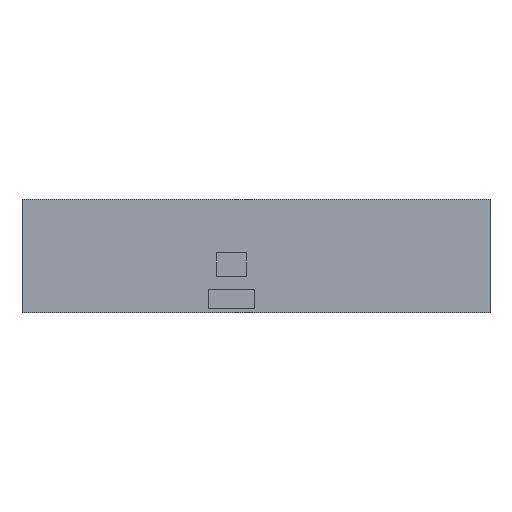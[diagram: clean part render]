
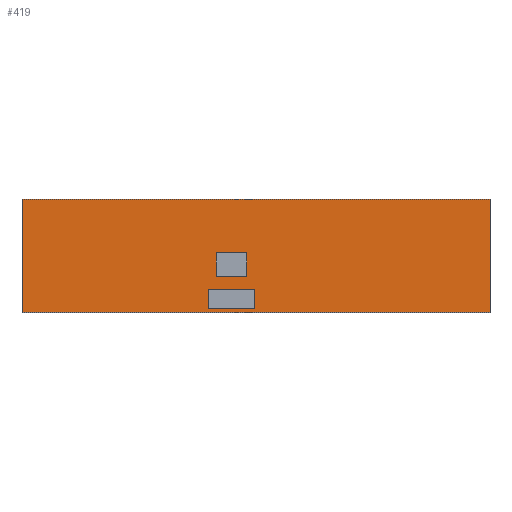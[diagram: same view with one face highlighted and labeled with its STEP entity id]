
A CAD part, top view. The second image highlights one B-rep face of the part: STEP entity #419.
In plain terms, the highlighted planar face has unit normal (0, 0, 1).
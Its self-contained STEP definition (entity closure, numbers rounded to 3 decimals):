
#72=DIRECTION('',(1.,0.,0.));
#73=VECTOR('',#72,35.2);
#74=CARTESIAN_POINT('',(-20.31,7.02,0.5));
#75=LINE('',#74,#73);
#79=DIRECTION('',(0.,-1.,0.));
#80=VECTOR('',#79,8.5);
#81=CARTESIAN_POINT('',(14.89,7.02,0.5));
#82=LINE('',#81,#80);
#86=DIRECTION('',(-1.,0.,0.));
#87=VECTOR('',#86,35.2);
#88=CARTESIAN_POINT('',(14.89,-1.48,0.5));
#89=LINE('',#88,#87);
#93=DIRECTION('',(0.,1.,0.));
#94=VECTOR('',#93,8.5);
#95=CARTESIAN_POINT('',(-20.31,-1.48,0.5));
#96=LINE('',#95,#94);
#100=DIRECTION('',(-1.,0.,0.));
#101=VECTOR('',#100,2.3);
#102=CARTESIAN_POINT('',(-3.41,3.02,0.5));
#103=LINE('',#102,#101);
#107=DIRECTION('',(0.,-1.,0.));
#108=VECTOR('',#107,1.8);
#109=CARTESIAN_POINT('',(-5.71,3.02,0.5));
#110=LINE('',#109,#108);
#114=DIRECTION('',(1.,0.,0.));
#115=VECTOR('',#114,2.3);
#116=CARTESIAN_POINT('',(-5.71,1.22,0.5));
#117=LINE('',#116,#115);
#121=DIRECTION('',(0.,1.,0.));
#122=VECTOR('',#121,1.8);
#123=CARTESIAN_POINT('',(-3.41,1.22,0.5));
#124=LINE('',#123,#122);
#128=DIRECTION('',(-1.,0.,0.));
#129=VECTOR('',#128,3.5);
#130=CARTESIAN_POINT('',(-2.81,0.22,0.5));
#131=LINE('',#130,#129);
#135=DIRECTION('',(0.,-1.,0.));
#136=VECTOR('',#135,1.4);
#137=CARTESIAN_POINT('',(-6.31,0.22,0.5));
#138=LINE('',#137,#136);
#142=DIRECTION('',(1.,0.,0.));
#143=VECTOR('',#142,3.5);
#144=CARTESIAN_POINT('',(-6.31,-1.18,0.5));
#145=LINE('',#144,#143);
#149=DIRECTION('',(0.,1.,0.));
#150=VECTOR('',#149,1.4);
#151=CARTESIAN_POINT('',(-2.81,-1.18,0.5));
#152=LINE('',#151,#150);
#276=CARTESIAN_POINT('',(14.89,7.02,0.5));
#277=VERTEX_POINT('',#276);
#278=CARTESIAN_POINT('',(-20.31,7.02,0.5));
#279=VERTEX_POINT('',#278);
#280=CARTESIAN_POINT('',(14.89,-1.48,0.5));
#281=VERTEX_POINT('',#280);
#282=CARTESIAN_POINT('',(-20.31,-1.48,0.5));
#283=VERTEX_POINT('',#282);
#284=CARTESIAN_POINT('',(-3.41,3.02,0.5));
#285=CARTESIAN_POINT('',(-5.71,3.02,0.5));
#286=VERTEX_POINT('',#284);
#287=VERTEX_POINT('',#285);
#288=CARTESIAN_POINT('',(-5.71,1.22,0.5));
#289=VERTEX_POINT('',#288);
#290=CARTESIAN_POINT('',(-3.41,1.22,0.5));
#291=VERTEX_POINT('',#290);
#292=CARTESIAN_POINT('',(-2.81,0.22,0.5));
#293=CARTESIAN_POINT('',(-6.31,0.22,0.5));
#294=VERTEX_POINT('',#292);
#295=VERTEX_POINT('',#293);
#296=CARTESIAN_POINT('',(-6.31,-1.18,0.5));
#297=VERTEX_POINT('',#296);
#298=CARTESIAN_POINT('',(-2.81,-1.18,0.5));
#299=VERTEX_POINT('',#298);
#388=CARTESIAN_POINT('',(0.,0.,0.5));
#389=DIRECTION('',(0.,0.,1.));
#390=DIRECTION('',(1.,0.,0.));
#391=AXIS2_PLACEMENT_3D('',#388,#389,#390);
#392=PLANE('',#391);
#393=ORIENTED_EDGE('',*,*,#339,.T.);
#394=ORIENTED_EDGE('',*,*,#354,.T.);
#395=ORIENTED_EDGE('',*,*,#368,.T.);
#396=ORIENTED_EDGE('',*,*,#381,.T.);
#397=EDGE_LOOP('',(#393,#394,#395,#396));
#398=FACE_OUTER_BOUND('',#397,.F.);
#400=ORIENTED_EDGE('',*,*,#399,.T.);
#402=ORIENTED_EDGE('',*,*,#401,.T.);
#404=ORIENTED_EDGE('',*,*,#403,.T.);
#406=ORIENTED_EDGE('',*,*,#405,.T.);
#407=EDGE_LOOP('',(#400,#402,#404,#406));
#408=FACE_BOUND('',#407,.F.);
#410=ORIENTED_EDGE('',*,*,#409,.T.);
#412=ORIENTED_EDGE('',*,*,#411,.T.);
#414=ORIENTED_EDGE('',*,*,#413,.T.);
#416=ORIENTED_EDGE('',*,*,#415,.T.);
#417=EDGE_LOOP('',(#410,#412,#414,#416));
#418=FACE_BOUND('',#417,.F.);
#339=EDGE_CURVE('',#279,#277,#75,.T.);
#354=EDGE_CURVE('',#277,#281,#82,.T.);
#368=EDGE_CURVE('',#281,#283,#89,.T.);
#381=EDGE_CURVE('',#283,#279,#96,.T.);
#399=EDGE_CURVE('',#286,#287,#103,.T.);
#401=EDGE_CURVE('',#287,#289,#110,.T.);
#403=EDGE_CURVE('',#289,#291,#117,.T.);
#405=EDGE_CURVE('',#291,#286,#124,.T.);
#409=EDGE_CURVE('',#294,#295,#131,.T.);
#411=EDGE_CURVE('',#295,#297,#138,.T.);
#413=EDGE_CURVE('',#297,#299,#145,.T.);
#415=EDGE_CURVE('',#299,#294,#152,.T.);
#419=ADVANCED_FACE('',(#398,#408,#418),#392,.T.);
